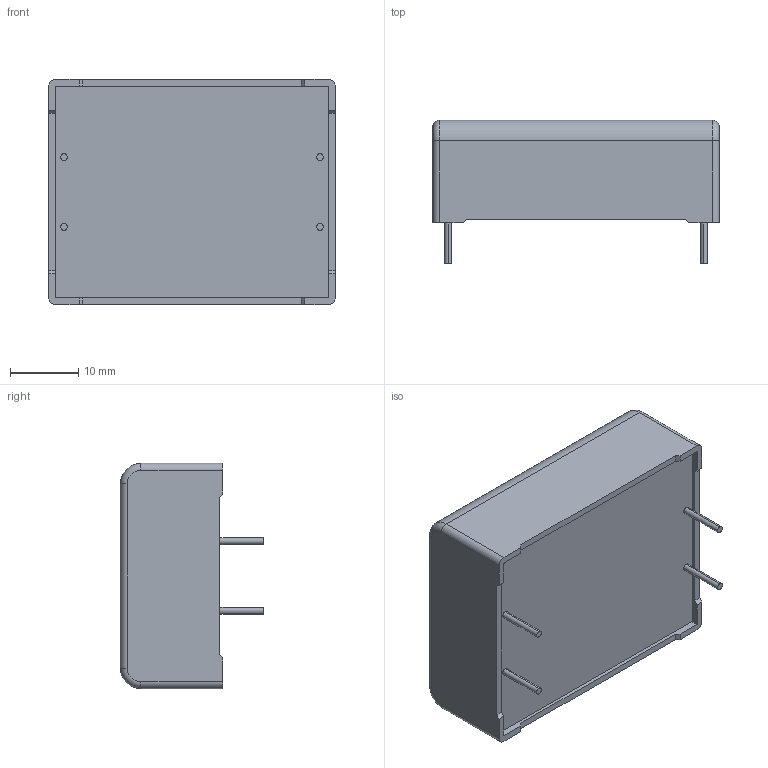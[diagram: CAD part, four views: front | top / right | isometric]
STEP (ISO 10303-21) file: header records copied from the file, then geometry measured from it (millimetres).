
FILE_DESCRIPTION (( 'STEP AP203' ), '1' );
FILE_NAME ('DC_Link_33x15x42_4pins10.2.step', '2017-04-03T16:00:11', ( 'work' ), ( 'Hewlett-Packard Company' ), 'SwSTEP 2.0', 'SolidWorks 2017', '' );
FILE_SCHEMA (( 'CONFIG_CONTROL_DESIGN' ));
Length unit declared in the file: millimetre
Products named in the file (1): DC_Link_33x15x42_4pins10.2
Bounding box: 42 x 21 x 33 mm (x, y, z)
Volume: 19328.1 mm3; surface area: 4972.5 mm2
Topology: 1 solids, 1 shells, 122 faces, 319 edges, 210 vertices
Faces by surface type: plane 82, cylinder 20, bspline 16, torus 4
Entity records: 4492 total; most frequent: CARTESIAN_POINT 1476, ORIENTED_EDGE 638, DIRECTION 545, EDGE_CURVE 319, VECTOR 243, LINE 243, VERTEX_POINT 210, AXIS2_PLACEMENT_3D 151
